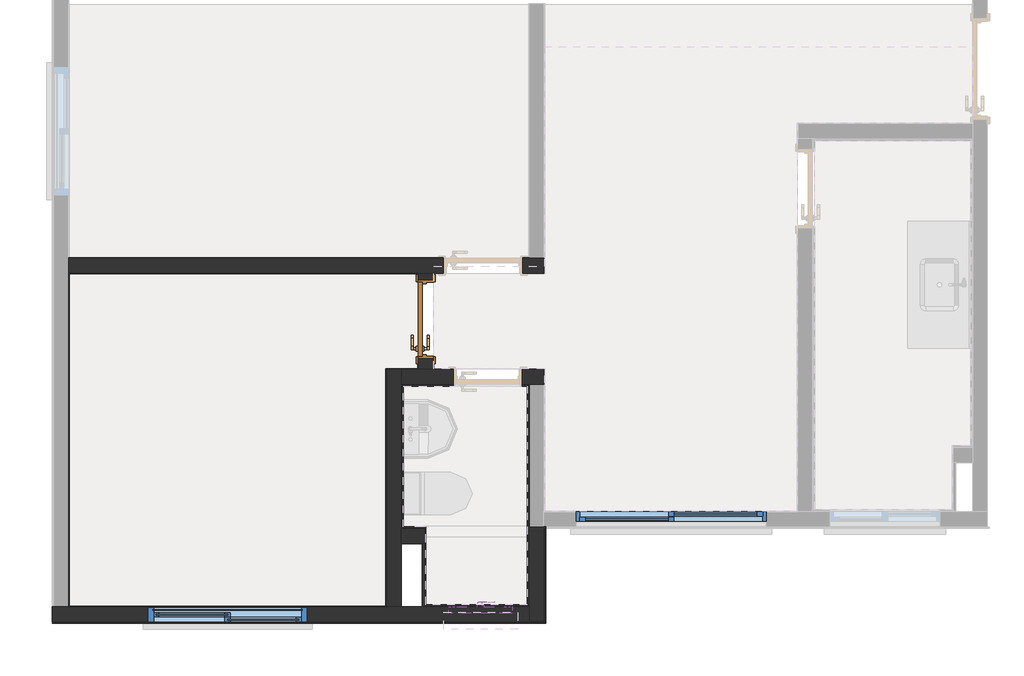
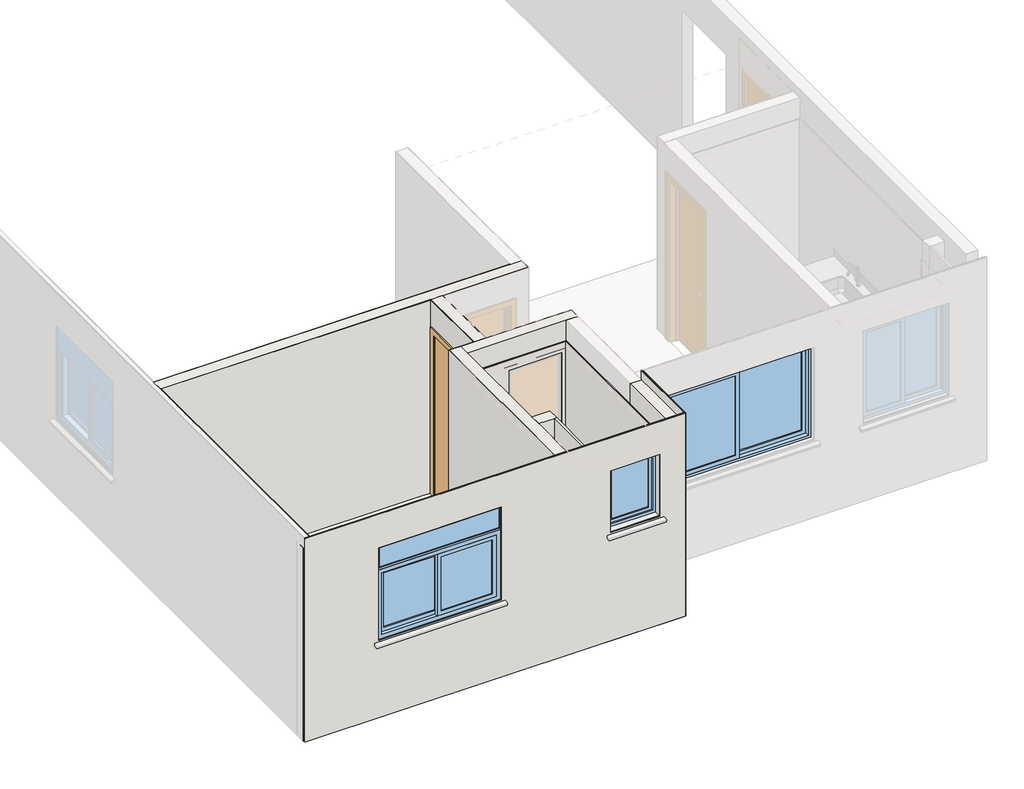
# One storey, part 1 of 11: 26 walls, 3 windows, 1 door.
"""IFC4 building model written with IfcOpenShell, lengths in millimetres."""

from ifc_helpers import new_model, si_unit, frame, origin, origin_with_axes, place, context, project, spatial, polyline, outline, extrude, faceted_brep, transform, mapped, element, save
from components import porta_de_madeira_interna_70_x_210_porta_de_madeira_interna_d0067c94, window_150x120_581fea6a, window_180x120_f0fd8075, window_60x80_d31b0025

model = new_model("IFC4")

# Units and contexts
model_context = context("Model", 3, world=origin())
ifc_project = project(units=[si_unit("LENGTHUNIT", "METRE", prefix="MILLI")], contexts=[model_context])

# Site, building, storey
site = spatial("IfcSite", under=ifc_project)
building = spatial("IfcBuilding", under=site)
storey = spatial("IfcBuildingStorey", under=building, Name="Térreo", Elevation=0.0)

# Door
placement = place(None, origin())
porta_de_madeira_interna_70_x_210_porta_de_madeira_interna_shape = porta_de_madeira_interna_70_x_210_porta_de_madeira_interna_d0067c94(model_context)
element("IfcDoor", 1, ObjectType="Porta de Madeira Interna 70 x 210 : Porta de Madeira Interna 70 x 210", at=placement, inside=storey, context=model_context, shape_type="MappedRepresentation", body=[
    mapped(porta_de_madeira_interna_70_x_210_porta_de_madeira_interna_shape, transform((3546.8230641, 3342.9958256, 0.0), x_axis=(0.0, 1.0, 0.0), y_axis=(-1.0, 0.0, 0.0), z_axis=(0.0, 0.0, 1.0))),
])

# Walls
element("IfcWall", 2, ObjectType="Mureta box", at=placement, inside=storey, context=model_context, shape_type="SweptSolid", body=[
    extrude(outline(polyline([(4509.99398, 1294.9970972), (3529.99398, 1294.9970972), (3529.99398, 1304.9970972), (4509.99398, 1304.9970972), (4509.99398, 1294.9970972)])), origin_with_axes(), (0.0, 0.0, 1.0), 90.0),
    extrude(outline(polyline([(3529.99398, 1374.9970972), (4509.99398, 1374.9970972), (4509.99398, 1364.9970972), (3529.99398, 1364.9970972), (3529.99398, 1374.9970972)])), origin_with_axes(), (0.0, 0.0, 1.0), 90.0),
    extrude(outline(polyline([(4509.99398, 1294.9970972), (3529.99398, 1294.9970972), (3529.99398, 1304.9970972), (4509.99398, 1304.9970972), (4509.99398, 1294.9970972)])), origin_with_axes(), (0.0, 0.0, 1.0), 90.0),
    extrude(outline(polyline([(3529.99398, 1374.9970972), (4509.99398, 1374.9970972), (4509.99398, 1364.9970972), (3529.99398, 1364.9970972), (3529.99398, 1374.9970972)])), origin_with_axes(), (0.0, 0.0, 1.0), 90.0),
    extrude(outline(polyline([(3529.99398, 1304.9970972), (3529.99398, 1364.9970972), (4509.99398, 1364.9970972), (4509.99398, 1304.9970972), (3529.99398, 1304.9970972)])), origin_with_axes(), (0.0, 0.0, 1.0), 90.0),
    extrude(outline(polyline([(3529.99398, 1304.9970972), (3529.99398, 1364.9970972), (4509.99398, 1364.9970972), (4509.99398, 1304.9970972), (3529.99398, 1304.9970972)])), origin_with_axes(), (0.0, 0.0, 1.0), 90.0),
])
element("IfcWall", 3, ObjectType="Alvenaria Estrutural", at=placement, inside=storey, context=model_context, shape_type="Brep", body=[
    faceted_brep([(4669.9996867, 3779.9951411, 2510.0), (3625.9980641, 3779.9951411, 2510.0), (3619.9980641, 3779.9951411, 2510.0), (3479.9980641, 3779.9951411, 2510.0), (3473.9980641, 3779.9951411, 2510.0), (175.9991825, 3779.9951411, 2510.0), (169.9991825, 3779.9951411, 2510.0), (169.9991825, 3779.9951411, 0.0), (175.9991825, 3779.9951411, 0.0), (3473.9980641, 3779.9951411, 0.0), (3479.9980641, 3779.9951411, 0.0), (3619.9980641, 3779.9951411, 0.0), (3625.9980641, 3779.9951411, 0.0), (3717.999908, 3779.9951411, 0.0), (3717.999908, 3779.9951411, 2125.0), (4467.999908, 3779.9951411, 2125.0), (4467.999908, 3779.9951411, 0.0), (4669.9996867, 3779.9951411, 0.0), (169.9991825, 3919.9951411, 2510.0), (175.9991825, 3919.9951411, 2510.0), (4523.9996867, 3919.9951411, 2510.0), (4529.9996867, 3919.9951411, 2510.0), (4669.9996867, 3919.9951411, 2510.0), (4669.9996867, 3919.9951411, 0.0), (4529.9996867, 3919.9951411, 0.0), (4523.9996867, 3919.9951411, 0.0), (4467.999908, 3919.9951411, 0.0), (4467.999908, 3919.9951411, 2125.0), (3717.999908, 3919.9951411, 2125.0), (3717.999908, 3919.9951411, 0.0), (175.9991825, 3919.9951411, 0.0), (169.9991825, 3919.9951411, 0.0)], [[[0, 1, 2, 3, 4, 5, 6, 7, 8, 9, 10, 11, 12, 13, 14, 15, 16, 17]], [[18, 19, 20, 21, 22, 23, 24, 25, 26, 27, 28, 29, 30, 31]], [[8, 7, 31, 30, 29, 13, 12, 11, 10, 9]], [[1, 0, 22, 21, 20, 19, 18, 6, 5, 4, 3, 2]], [[16, 15, 27, 26]], [[15, 14, 28, 27]], [[14, 13, 29, 28]], [[0, 17, 23, 22]], [[7, 6, 18, 31]], [[17, 16, 26, 25, 24, 23]]]),
    faceted_brep([(175.9991825, 3779.9951411, 0.0), (169.9991825, 3779.9951411, 0.0), (169.9991825, 3919.9951411, 0.0), (175.9991825, 3919.9951411, 0.0), (3717.999908, 3919.9951411, 0.0), (3717.999908, 3779.9951411, 0.0), (3625.9980641, 3779.9951411, 0.0), (3619.9980641, 3779.9951411, 0.0), (3479.9980641, 3779.9951411, 0.0), (3473.9980641, 3779.9951411, 0.0), (3625.9980641, 3779.9951411, 2510.0), (4669.9996867, 3779.9951411, 2510.0), (4669.9996867, 3919.9951411, 2510.0), (4529.9996867, 3919.9951411, 2510.0), (4523.9996867, 3919.9951411, 2510.0), (175.9991825, 3919.9951411, 2510.0), (169.9991825, 3919.9951411, 2510.0), (169.9991825, 3779.9951411, 2510.0), (175.9991825, 3779.9951411, 2510.0), (3473.9980641, 3779.9951411, 2510.0), (3479.9980641, 3779.9951411, 2510.0), (3619.9980641, 3779.9951411, 2510.0), (4467.999908, 3779.9951411, 0.0), (4467.999908, 3779.9951411, 2125.0), (4467.999908, 3919.9951411, 2125.0), (4467.999908, 3919.9951411, 0.0), (3717.999908, 3779.9951411, 2125.0), (3717.999908, 3919.9951411, 2125.0), (4669.9996867, 3779.9951411, 0.0), (4523.9996867, 3919.9951411, 0.0), (4529.9996867, 3919.9951411, 0.0), (4669.9996867, 3919.9951411, 0.0)], [[[0, 1, 2, 3, 4, 5, 6, 7, 8, 9]], [[10, 11, 12, 13, 14, 15, 16, 17, 18, 19, 20, 21]], [[22, 23, 24, 25]], [[23, 26, 27, 24]], [[26, 5, 4, 27]], [[28, 22, 25, 29, 30, 31]], [[16, 15, 14, 13, 12, 31, 30, 29, 25, 24, 27, 4, 3, 2]], [[11, 10, 21, 20, 19, 18, 17, 1, 0, 9, 8, 7, 6, 5, 26, 23, 22, 28]], [[11, 28, 31, 12]], [[1, 17, 16, 2]]]),
])
element("IfcWall", 4, ObjectType="Alvenaria Estrutural", at=placement, inside=storey, context=model_context, shape_type="Brep", body=[
    faceted_brep([(3479.9980641, 2869.9967615, 2510.0), (3479.9980641, 2875.9967615, 2510.0), (3479.9980641, 3779.9951411, 2510.0), (3479.9980641, 3779.9951411, 0.0), (3479.9980641, 3717.9958256, 0.0), (3479.9980641, 3717.9958256, 2125.0), (3479.9980641, 2967.9958256, 2125.0), (3479.9980641, 2967.9958256, 0.0), (3479.9980641, 2875.9967615, 0.0), (3479.9980641, 2869.9967615, 0.0), (3619.9980641, 3779.9951411, 2510.0), (3619.9980641, 3773.9951411, 2510.0), (3619.9980641, 2875.9967615, 2510.0), (3619.9980641, 2869.9967615, 2510.0), (3619.9980641, 2869.9967615, 0.0), (3619.9980641, 2875.9967615, 0.0), (3619.9980641, 2967.9958256, 0.0), (3619.9980641, 2967.9958256, 2125.0), (3619.9980641, 3717.9958256, 2125.0), (3619.9980641, 3717.9958256, 0.0), (3619.9980641, 3773.9951411, 0.0), (3619.9980641, 3779.9951411, 0.0)], [[[0, 1, 2, 3, 4, 5, 6, 7, 8, 9]], [[10, 11, 12, 13, 14, 15, 16, 17, 18, 19, 20, 21]], [[4, 3, 21, 20, 19]], [[1, 0, 13, 12, 11, 10, 2]], [[5, 4, 19, 18]], [[6, 5, 18, 17]], [[7, 6, 17, 16]], [[0, 9, 14, 13]], [[3, 2, 10, 21]], [[8, 7, 16, 15, 14, 9]]]),
    faceted_brep([(3479.9980641, 2875.9967615, 2510.0), (3479.9980641, 2869.9967615, 2510.0), (3619.9980641, 2869.9967615, 2510.0), (3619.9980641, 2875.9967615, 2510.0), (3619.9980641, 3773.9951411, 2510.0), (3619.9980641, 3779.9951411, 2510.0), (3479.9980641, 3779.9951411, 2510.0), (3479.9980641, 3717.9958256, 2125.0), (3479.9980641, 3717.9958256, 0.0), (3619.9980641, 3717.9958256, 0.0), (3619.9980641, 3717.9958256, 2125.0), (3479.9980641, 2967.9958256, 2125.0), (3619.9980641, 2967.9958256, 2125.0), (3479.9980641, 2967.9958256, 0.0), (3619.9980641, 2967.9958256, 0.0), (3619.9980641, 2869.9967615, 0.0), (3619.9980641, 2875.9967615, 0.0), (3619.9980641, 3773.9951411, 0.0), (3619.9980641, 3779.9951411, 0.0), (3479.9980641, 3779.9951411, 0.0), (3479.9980641, 2875.9967615, 0.0), (3479.9980641, 2869.9967615, 0.0)], [[[0, 1, 2, 3, 4, 5, 6]], [[7, 8, 9, 10]], [[11, 7, 10, 12]], [[13, 11, 12, 14]], [[5, 4, 3, 2, 15, 16, 14, 12, 10, 9, 17, 18]], [[1, 0, 6, 19, 8, 7, 11, 13, 20, 21]], [[8, 19, 18, 17, 9]], [[1, 21, 15, 2]], [[19, 6, 5, 18]], [[20, 13, 14, 16, 15, 21]]]),
])
element("IfcWall", 5, ObjectType="Alvenaria Estrutural", at=placement, inside=storey, context=model_context, shape_type="Brep", body=[
    faceted_brep([(3319.9976538, 1219.9970972, 0.0), (3516.99398, 1219.9970972, 0.0), (3539.99398, 1219.9970972, 0.0), (3539.99398, 1219.9970972, 2510.0), (3516.99398, 1219.9970972, 2510.0), (3319.9976538, 1219.9970972, 2510.0), (3319.9976538, 1359.9970972, 0.0), (3319.9976538, 1359.9970972, 2510.0), (3539.99398, 1359.9970972, 2510.0), (3539.99398, 1359.9970972, 0.0)], [[[0, 1, 2, 3, 4, 5]], [[6, 7, 8, 9]], [[1, 0, 6, 9, 2]], [[4, 3, 8, 7, 5]], [[3, 2, 9, 8]], [[0, 5, 7, 6]]]),
    faceted_brep([(3319.9976538, 1219.9970972, 0.0), (3516.99398, 1219.9970972, 0.0), (3539.99398, 1219.9970972, 0.0), (3539.99398, 1219.9970972, 2510.0), (3516.99398, 1219.9970972, 2510.0), (3319.9976538, 1219.9970972, 2510.0), (3319.9976538, 1359.9970972, 0.0), (3539.99398, 1359.9970972, 0.0), (3539.99398, 1359.9970972, 2510.0), (3319.9976538, 1359.9970972, 2510.0)], [[[0, 1, 2, 3, 4, 5]], [[1, 0, 6, 7, 2]], [[4, 3, 8, 9, 5]], [[6, 9, 8, 7]], [[3, 2, 7, 8]], [[0, 5, 9, 6]]]),
])
element("IfcWall", 6, ObjectType="Alvenaria Estrutural", at=placement, inside=storey, context=model_context, shape_type="Brep", body=[
    faceted_brep([(3319.9976538, 619.9952456, 0.0), (3319.9976538, 1219.9970972, 0.0), (3319.9976538, 1359.9970972, 0.0), (3319.9976538, 1379.9970972, 0.0), (3319.9976538, 2709.9967615, 0.0), (3319.9976538, 2729.9967615, 0.0), (3319.9976538, 2869.9967615, 0.0), (3319.9976538, 2869.9967615, 2510.0), (3319.9976538, 2729.9967615, 2510.0), (3319.9976538, 1359.9970972, 2510.0), (3319.9976538, 1219.9970972, 2510.0), (3319.9976538, 619.9952456, 2510.0), (3179.9976538, 619.9952456, 0.0), (3179.9976538, 619.9952456, 2510.0), (3179.9976538, 625.9952456, 2510.0), (3179.9976538, 2869.9967615, 2510.0), (3179.9976538, 2869.9967615, 0.0), (3179.9976538, 625.9952456, 0.0)], [[[0, 1, 2, 3, 4, 5, 6, 7, 8, 9, 10, 11]], [[12, 13, 14, 15, 16, 17]], [[1, 0, 12, 17, 16, 6, 5, 4, 3, 2]], [[8, 7, 15, 14, 13, 11, 10, 9]], [[7, 6, 16, 15]], [[0, 11, 13, 12]]]),
    faceted_brep([(3319.9976538, 1219.9970972, 0.0), (3319.9976538, 619.9952456, 0.0), (3179.9976538, 619.9952456, 0.0), (3179.9976538, 625.9952456, 0.0), (3179.9976538, 2869.9967615, 0.0), (3319.9976538, 2869.9967615, 0.0), (3319.9976538, 2729.9967615, 0.0), (3319.9976538, 2709.9967615, 0.0), (3319.9976538, 1379.9970972, 0.0), (3319.9976538, 1359.9970972, 0.0), (3319.9976538, 2729.9967615, 2510.0), (3319.9976538, 2869.9967615, 2510.0), (3179.9976538, 2869.9967615, 2510.0), (3179.9976538, 625.9952456, 2510.0), (3179.9976538, 619.9952456, 2510.0), (3319.9976538, 619.9952456, 2510.0), (3319.9976538, 1219.9970972, 2510.0), (3319.9976538, 1359.9970972, 2510.0)], [[[0, 1, 2, 3, 4, 5, 6, 7, 8, 9]], [[10, 11, 12, 13, 14, 15, 16, 17]], [[1, 0, 9, 8, 7, 6, 5, 11, 10, 17, 16, 15]], [[2, 14, 13, 12, 4, 3]], [[11, 5, 4, 12]], [[1, 15, 14, 2]]]),
])
element("IfcWall", 7, ObjectType="Alvenaria Estrutural", at=placement, inside=storey, context=model_context, shape_type="Brep", body=[
    faceted_brep([(4669.9990083, 2729.9967615, 2510.0), (4529.9990083, 2729.9967615, 2510.0), (3319.9976538, 2729.9967615, 2510.0), (3319.9976538, 2729.9967615, 0.0), (3812.9990083, 2729.9967615, 0.0), (3812.9990083, 2729.9967615, 2125.0), (4462.9990083, 2729.9967615, 2125.0), (4462.9990083, 2729.9967615, 0.0), (4529.9990083, 2729.9967615, 0.0), (4669.9990083, 2729.9967615, 0.0), (3319.9976538, 2869.9967615, 2510.0), (3479.9980641, 2869.9967615, 2510.0), (3619.9980641, 2869.9967615, 2510.0), (3625.9980641, 2869.9967615, 2510.0), (4669.9990083, 2869.9967615, 2510.0), (4669.9990083, 2869.9967615, 0.0), (4462.9990083, 2869.9967615, 0.0), (4462.9990083, 2869.9967615, 2125.0), (3812.9990083, 2869.9967615, 2125.0), (3812.9990083, 2869.9967615, 0.0), (3625.9980641, 2869.9967615, 0.0), (3619.9980641, 2869.9967615, 0.0), (3479.9980641, 2869.9967615, 0.0), (3319.9976538, 2869.9967615, 0.0)], [[[0, 1, 2, 3, 4, 5, 6, 7, 8, 9]], [[10, 11, 12, 13, 14, 15, 16, 17, 18, 19, 20, 21, 22, 23]], [[4, 3, 23, 22, 21, 20, 19]], [[1, 0, 14, 13, 12, 11, 10, 2]], [[7, 6, 17, 16]], [[6, 5, 18, 17]], [[5, 4, 19, 18]], [[0, 9, 15, 14]], [[3, 2, 10, 23]], [[8, 7, 16, 15, 9]]]),
    faceted_brep([(3812.9990083, 2729.9967615, 0.0), (3319.9976538, 2729.9967615, 0.0), (3319.9976538, 2869.9967615, 0.0), (3479.9980641, 2869.9967615, 0.0), (3619.9980641, 2869.9967615, 0.0), (3625.9980641, 2869.9967615, 0.0), (3812.9990083, 2869.9967615, 0.0), (4529.9990083, 2729.9967615, 2510.0), (4669.9990083, 2729.9967615, 2510.0), (4669.9990083, 2869.9967615, 2510.0), (3625.9980641, 2869.9967615, 2510.0), (3619.9980641, 2869.9967615, 2510.0), (3479.9980641, 2869.9967615, 2510.0), (3319.9976538, 2869.9967615, 2510.0), (3319.9976538, 2729.9967615, 2510.0), (4462.9990083, 2729.9967615, 0.0), (4462.9990083, 2729.9967615, 2125.0), (4462.9990083, 2869.9967615, 2125.0), (4462.9990083, 2869.9967615, 0.0), (3812.9990083, 2729.9967615, 2125.0), (3812.9990083, 2869.9967615, 2125.0), (4529.9990083, 2729.9967615, 0.0), (4669.9990083, 2869.9967615, 0.0), (4669.9990083, 2729.9967615, 0.0)], [[[0, 1, 2, 3, 4, 5, 6]], [[7, 8, 9, 10, 11, 12, 13, 14]], [[15, 16, 17, 18]], [[16, 19, 20, 17]], [[19, 0, 6, 20]], [[21, 15, 18, 22, 23]], [[13, 12, 11, 10, 9, 22, 18, 17, 20, 6, 5, 4, 3, 2]], [[8, 7, 14, 1, 0, 19, 16, 15, 21, 23]], [[8, 23, 22, 9]], [[1, 14, 13, 2]]]),
])
element("IfcWall", 8, ObjectType="Alvenaria Estrutural", at=placement, inside=storey, context=model_context, shape_type="Brep", body=[
    faceted_brep([(4669.9986472, 479.9952456, 0.0), (4669.9986472, 1374.9970972, 0.0), (4669.9986472, 1374.9970972, 2510.0), (4669.9986472, 479.9952456, 2510.0), (4529.9986472, 479.9952456, 0.0), (4529.9986472, 479.9952456, 2510.0), (4529.9986472, 619.9952456, 2510.0), (4529.9986472, 1374.9970972, 2510.0), (4529.9986472, 1374.9970972, 0.0), (4529.9986472, 619.9952456, 0.0)], [[[0, 1, 2, 3]], [[4, 5, 6, 7, 8, 9]], [[1, 0, 4, 9, 8]], [[2, 1, 8, 7]], [[3, 2, 7, 6, 5]], [[0, 3, 5, 4]]]),
    faceted_brep([(4669.9986472, 1374.9970972, 0.0), (4669.9986472, 479.9952456, 0.0), (4529.9986472, 479.9952456, 0.0), (4529.9986472, 619.9952456, 0.0), (4529.9986472, 1374.9970972, 0.0), (4669.9986472, 1374.9970972, 2510.0), (4529.9986472, 1374.9970972, 2510.0), (4669.9986472, 479.9952456, 2510.0), (4529.9986472, 619.9952456, 2510.0), (4529.9986472, 479.9952456, 2510.0)], [[[0, 1, 2, 3, 4]], [[5, 0, 4, 6]], [[7, 5, 6, 8, 9]], [[2, 9, 8, 6, 4, 3]], [[1, 0, 5, 7]], [[1, 7, 9, 2]]]),
])
element("IfcWall", 9, ObjectType="Alvenaria Estrutural", at=placement, inside=storey, context=model_context, shape_type="Brep", body=[
    faceted_brep([(14.9976538, 479.9952456, 0.0), (4529.9986472, 479.9952456, 0.0), (4529.9986472, 479.9952456, 2510.0), (14.9976538, 479.9952456, 2510.0), (3719.9986472, 479.9952456, 1351.3083694), (3719.9986472, 479.9952456, 1400.0), (3769.9986472, 479.9952456, 1400.0), (3769.9986472, 479.9952456, 2200.0), (4369.9986472, 479.9952456, 2200.0), (4369.9986472, 479.9952456, 1400.0), (4419.9986472, 479.9952456, 1400.0), (4419.9986472, 479.9952456, 1351.3083694), (874.9984443, 479.9952456, 951.3083694), (874.9984443, 479.9952456, 1000.0), (924.9984443, 479.9952456, 1000.0), (924.9984443, 479.9952456, 2200.0), (2424.9984443, 479.9952456, 2200.0), (2424.9984443, 479.9952456, 1000.0), (2474.9984443, 479.9952456, 1000.0), (2474.9984443, 479.9952456, 951.3083694), (4529.9986472, 619.9952456, 0.0), (4509.9990083, 619.9952456, 0.0), (3539.99398, 619.9952456, 0.0), (3516.99398, 619.9952456, 0.0), (3319.9976538, 619.9952456, 0.0), (3179.9976538, 619.9952456, 0.0), (175.9991825, 619.9952456, 0.0), (169.9991825, 619.9952456, 0.0), (14.9976538, 619.9952456, 0.0), (14.9976538, 619.9952456, 2510.0), (169.9991825, 619.9952456, 2510.0), (175.9991825, 619.9952456, 2510.0), (3179.9976538, 619.9952456, 2510.0), (3319.9976538, 619.9952456, 2510.0), (3516.99398, 619.9952456, 2510.0), (3539.99398, 619.9952456, 2510.0), (4529.9986472, 619.9952456, 2510.0), (4529.9986472, 619.9952456, 2250.0), (4369.9986472, 619.9952456, 1400.0), (4369.9986472, 619.9952456, 2200.0), (3769.9986472, 619.9952456, 2200.0), (3769.9986472, 619.9952456, 1400.0), (2424.9984443, 619.9952456, 1000.0), (2424.9984443, 619.9952456, 2200.0), (924.9984443, 619.9952456, 2200.0), (924.9984443, 619.9952456, 1000.0), (4529.9986472, 480.9952456, 0.0), (4529.9986472, 480.9952456, 2510.0), (874.9984443, 577.4952456, 972.0326341), (874.9984443, 577.4952456, 1000.0), (2474.9984443, 577.4952456, 1000.0), (2474.9984443, 577.4952456, 972.0326341), (2424.9984443, 577.4952456, 1000.0), (924.9984443, 577.4952456, 1000.0), (3719.9986472, 577.4952456, 1372.0326341), (3719.9986472, 577.4952456, 1400.0), (4419.9986472, 577.4952456, 1400.0), (4419.9986472, 577.4952456, 1372.0326341), (4369.9986472, 577.4952456, 1400.0), (3769.9986472, 577.4952456, 1400.0)], [[[0, 1, 2, 3], [4, 5, 6, 7, 8, 9, 10, 11], [12, 13, 14, 15, 16, 17, 18, 19]], [[20, 21, 22, 23, 24, 25, 26, 27, 28, 29, 30, 31, 32, 33, 34, 35, 36, 37], [38, 39, 40, 41], [42, 43, 44, 45]], [[1, 0, 28, 27, 26, 25, 24, 23, 22, 21, 20, 46]], [[29, 3, 2, 47, 36, 35, 34, 33, 32, 31, 30]], [[13, 12, 48, 49]], [[19, 18, 50, 51]], [[49, 48, 51, 50, 52, 53]], [[14, 13, 49, 53]], [[12, 19, 51, 48]], [[17, 16, 43, 42, 52]], [[16, 15, 44, 43]], [[15, 14, 53, 45, 44]], [[42, 45, 53, 52]], [[5, 4, 54, 55]], [[11, 10, 56, 57]], [[55, 54, 57, 56, 58, 59]], [[6, 5, 55, 59]], [[4, 11, 57, 54]], [[9, 8, 39, 38, 58]], [[8, 7, 40, 39]], [[7, 6, 59, 41, 40]], [[38, 41, 59, 58]], [[2, 1, 46, 20, 37, 36, 47]], [[10, 9, 58, 56]], [[18, 17, 52, 50]], [[0, 3, 29, 28]]]),
])
element("IfcWall", 10, ObjectType="Azulejo", at=placement, inside=storey, context=model_context, shape_type="SolidModel", body=[
    faceted_brep([(3812.9990083, 2719.9967615, 0.0), (3812.9990083, 2709.9967615, 0.0), (3339.9976538, 2709.9967615, 0.0), (3329.9976538, 2709.9967615, 0.0), (3329.9976538, 2719.9967615, 0.0), (3339.9976538, 2709.9967615, 2250.0), (4509.9990083, 2709.9967615, 2250.0), (4519.9990083, 2709.9967615, 2250.0), (4519.9990083, 2719.9967615, 2250.0), (3329.9976538, 2719.9967615, 2250.0), (3329.9976538, 2709.9967615, 2250.0), (4462.9990083, 2709.9967615, 0.0), (4462.9990083, 2709.9967615, 2125.0), (4462.9990083, 2719.9967615, 2125.0), (4462.9990083, 2719.9967615, 0.0), (3812.9990083, 2709.9967615, 2125.0), (3812.9990083, 2719.9967615, 2125.0), (4519.9990083, 2719.9967615, 0.0), (4519.9990083, 2709.9967615, 0.0), (4509.9990083, 2709.9967615, 0.0)], [[[0, 1, 2, 3, 4]], [[5, 6, 7, 8, 9, 10]], [[11, 12, 13, 14]], [[13, 12, 15, 16]], [[1, 0, 16, 15]], [[11, 14, 17, 18, 19]], [[14, 13, 16, 0, 4, 9, 8, 17]], [[2, 1, 15, 12, 11, 19, 18, 7, 6, 5, 10, 3]], [[4, 3, 10, 9]], [[8, 7, 18, 17]]]),
    extrude(outline(polyline([(0.0, 3319.9976538), (0.0, 3812.9990083), (2125.0, 3812.9990083), (2125.0, 4462.9990083), (0.0, 4462.9990083), (0.0, 4529.9990083), (2250.0, 4529.9990083), (2250.0, 3319.9976538), (0.0, 3319.9976538)])), frame((0.0, 2719.9967615, 0.0), z_axis=(0.0, 1.0, 0.0), x_axis=(0.0, 0.0, 1.0)), (0.0, 0.0, 1.0), 10.0),
])
element("IfcWall", 11, ObjectType="Azulejo", at=placement, inside=storey, context=model_context, shape_type="SolidModel", body=[
    faceted_brep([(4509.9990083, 639.9950349, 0.0), (4509.9990083, 2709.9967615, 0.0), (4519.9990083, 2709.9967615, 0.0), (4519.9990083, 629.9950349, 0.0), (4509.9990083, 629.9950349, 0.0), (4519.9990083, 2709.9967615, 2250.0), (4509.9990083, 2709.9967615, 2250.0), (4509.9990083, 639.9950349, 2250.0), (4509.9990083, 629.9950349, 2250.0), (4519.9990083, 629.9950349, 2250.0)], [[[0, 1, 2, 3, 4]], [[5, 6, 7, 8, 9]], [[2, 1, 6, 5]], [[2, 5, 9, 3]], [[1, 0, 4, 8, 7, 6]], [[4, 3, 9, 8]]]),
    extrude(outline(polyline([(4529.9990083, 2719.9967615), (4529.9990083, 619.9952456), (4519.9990083, 619.9952456), (4519.9990083, 2719.9967615), (4529.9990083, 2719.9967615)])), origin_with_axes(), (0.0, 0.0, 1.0), 2250.0),
])
element("IfcWall", 12, ObjectType="Azulejo", at=placement, inside=storey, context=model_context, shape_type="SolidModel", body=[
    faceted_brep([(3549.99398, 639.9950349, 0.0), (4509.9990083, 639.9950349, 0.0), (4509.9990083, 629.9950349, 0.0), (3539.99398, 629.9950349, 0.0), (3539.99398, 639.9950349, 0.0), (3549.99398, 639.9950349, 2250.0), (3539.99398, 639.9950349, 2250.0), (3539.99398, 629.9950349, 2250.0), (4509.9990083, 629.9950349, 2250.0), (4509.9990083, 639.9950349, 2250.0), (4369.9986472, 639.9950349, 2200.0), (4369.9986472, 639.9950349, 1400.0), (4369.9986472, 629.9950349, 1400.0), (4369.9986472, 629.9950349, 2200.0), (3769.9986472, 639.9950349, 2200.0), (3769.9986472, 629.9950349, 2200.0), (3769.9986472, 639.9950349, 1400.0), (3769.9986472, 629.9950349, 1400.0)], [[[0, 1, 2, 3, 4]], [[5, 6, 7, 8, 9]], [[1, 9, 8, 2]], [[6, 4, 3, 7]], [[10, 11, 12, 13]], [[14, 10, 13, 15]], [[16, 14, 15, 17]], [[11, 16, 17, 12]], [[3, 2, 8, 7], [13, 12, 17, 15]], [[1, 0, 4, 6, 5, 9], [11, 10, 14, 16]]]),
    extrude(outline(polyline([(0.0, 4519.9990083), (2250.0, 4519.9990083), (2250.0, 3539.99398), (0.0, 3539.99398), (0.0, 4519.9990083)]), holes=[polyline([(1400.0, 4369.9986472), (1400.0, 3769.9986472), (2200.0, 3769.9986472), (2200.0, 4369.9986472), (1400.0, 4369.9986472)])]), frame((0.0, 619.9950349, 0.0), z_axis=(0.0, 1.0, 0.0), x_axis=(0.0, 0.0, 1.0)), (0.0, 0.0, 1.0), 10.0),
])
element("IfcWall", 13, ObjectType="Azulejo", at=placement, inside=storey, context=model_context, shape_type="SweptSolid", body=[
    extrude(outline(polyline([(3549.99398, 1369.9970972), (3549.99398, 1219.9970972), (3539.99398, 1219.9970972), (3539.99398, 1369.9970972), (3549.99398, 1369.9970972)])), origin_with_axes(), (0.0, 0.0, 1.0), 2250.0),
    extrude(outline(polyline([(3529.99398, 1219.9970972), (3529.99398, 1359.9970972), (3539.99398, 1359.9970972), (3539.99398, 1219.9970972), (3529.99398, 1219.9970972)])), origin_with_axes(), (0.0, 0.0, 1.0), 2250.0),
])
element("IfcWall", 14, ObjectType="Azulejo", at=placement, inside=storey, context=model_context, shape_type="Brep", body=[
    faceted_brep([(3339.9976538, 1379.9970972, 0.0), (3549.99398, 1379.9970972, 0.0), (3549.99398, 1369.9970972, 0.0), (3329.9976538, 1369.9970972, 0.0), (3329.9976538, 1379.9970972, 0.0), (3549.99398, 1369.9970972, 2250.0), (3549.99398, 1379.9970972, 2250.0), (3339.9976538, 1379.9970972, 2250.0), (3329.9976538, 1379.9970972, 2250.0), (3329.9976538, 1369.9970972, 2250.0)], [[[0, 1, 2, 3, 4]], [[5, 6, 7, 8, 9]], [[2, 1, 6, 5]], [[2, 5, 9, 3]], [[1, 0, 4, 8, 7, 6]], [[4, 3, 9, 8]]]),
    faceted_brep([(3539.99398, 1369.9970972, 0.0), (3319.9976538, 1369.9970972, 0.0), (3319.9976538, 1369.9970972, 2250.0), (3539.99398, 1369.9970972, 2250.0), (3319.9976538, 1359.9970972, 0.0), (3529.99398, 1359.9970972, 0.0), (3539.99398, 1359.9970972, 0.0), (3539.99398, 1359.9970972, 2250.0), (3529.99398, 1359.9970972, 2250.0), (3319.9976538, 1359.9970972, 2250.0)], [[[0, 1, 2, 3]], [[4, 5, 6, 7, 8, 9]], [[5, 4, 1, 0, 6]], [[8, 7, 3, 2, 9]], [[4, 9, 2, 1]], [[7, 6, 0, 3]]]),
])
element("IfcWall", 15, ObjectType="Azulejo", at=placement, inside=storey, context=model_context, shape_type="SweptSolid", body=[
    extrude(outline(polyline([(3339.9976538, 2709.9967615), (3339.9976538, 1379.9970972), (3329.9976538, 1379.9970972), (3329.9976538, 2709.9967615), (3339.9976538, 2709.9967615)])), origin_with_axes(), (0.0, 0.0, 1.0), 2250.0),
    extrude(outline(polyline([(3319.9976538, 1369.9970972), (3319.9976538, 2719.9967615), (3329.9976538, 2719.9967615), (3329.9976538, 1369.9970972), (3319.9976538, 1369.9970972)])), origin_with_axes(), (0.0, 0.0, 1.0), 2250.0),
])
element("IfcWall", 16, ObjectType="Azulejo - Shaft", at=placement, inside=storey, context=model_context, shape_type="SweptSolid", body=[
    extrude(outline(polyline([(3549.99398, 1219.9970972), (3549.99398, 639.9950349), (3539.99398, 639.9950349), (3539.99398, 1219.9970972), (3549.99398, 1219.9970972)])), origin_with_axes(), (0.0, 0.0, 1.0), 2250.0),
])
element("IfcWall", 17, ObjectType="Gesso Liso + Pintura", at=placement, inside=storey, context=model_context, shape_type="SweptSolid", body=[
    extrude(outline(polyline([(0.0, 169.9991825), (0.0, 3717.999908), (2125.0, 3717.999908), (2125.0, 4467.999908), (0.0, 4467.999908), (0.0, 4529.9996867), (2510.0, 4529.9996867), (2510.0, 169.9991825), (0.0, 169.9991825)])), frame((0.0, 3924.9951411, 0.0), z_axis=(0.0, 1.0, 0.0), x_axis=(0.0, 0.0, 1.0)), (0.0, 0.0, 1.0), 1.0),
    extrude(outline(polyline([(2510.0, 4529.9996867), (2510.0, 169.9991825), (0.0, 169.9991825), (0.0, 3717.999908), (2125.0, 3717.999908), (2125.0, 4467.999908), (0.0, 4467.999908), (0.0, 4529.9996867), (2510.0, 4529.9996867)])), frame((0.0, 3919.9951411, 0.0), z_axis=(0.0, 1.0, 0.0), x_axis=(0.0, 0.0, 1.0)), (0.0, 0.0, 1.0), 5.0),
])
element("IfcWall", 18, ObjectType="Gesso Liso + Pintura", at=placement, inside=storey, context=model_context, shape_type="SolidModel", body=[
    faceted_brep([(174.9991825, 3779.9951411, 0.0), (175.9991825, 3779.9951411, 0.0), (175.9991825, 625.9952456, 0.0), (175.9991825, 624.9952456, 0.0), (174.9991825, 624.9952456, 0.0), (175.9991825, 625.9952456, 2510.0), (175.9991825, 3779.9951411, 2510.0), (174.9991825, 3779.9951411, 2510.0), (174.9991825, 624.9952456, 2510.0), (175.9991825, 624.9952456, 2510.0)], [[[0, 1, 2, 3, 4]], [[5, 6, 7, 8, 9]], [[1, 0, 7, 6]], [[7, 0, 4, 8]], [[2, 1, 6, 5, 9, 3]], [[4, 3, 9, 8]]]),
    extrude(outline(polyline([(169.9991825, 619.9952456), (169.9991825, 3779.9951411), (174.9991825, 3779.9951411), (174.9991825, 619.9952456), (169.9991825, 619.9952456)])), origin_with_axes(), (0.0, 0.0, 1.0), 2510.0),
])
element("IfcWall", 19, ObjectType="Gesso Liso + Pintura", at=placement, inside=storey, context=model_context, shape_type="SolidModel", body=[
    faceted_brep([(175.9991825, 624.9952456, 0.0), (175.9991825, 625.9952456, 0.0), (3173.9976538, 625.9952456, 0.0), (3174.9976538, 625.9952456, 0.0), (3174.9976538, 624.9952456, 0.0), (3173.9976538, 625.9952456, 2510.0), (175.9991825, 625.9952456, 2510.0), (175.9991825, 624.9952456, 2510.0), (3174.9976538, 624.9952456, 2510.0), (3174.9976538, 625.9952456, 2510.0), (2424.9984443, 625.9952456, 2200.0), (2424.9984443, 625.9952456, 1000.0), (2424.9984443, 624.9952456, 1000.0), (2424.9984443, 624.9952456, 2200.0), (924.9984443, 624.9952456, 2200.0), (924.9984443, 625.9952456, 2200.0), (924.9984443, 624.9952456, 1000.0), (924.9984443, 625.9952456, 1000.0)], [[[0, 1, 2, 3, 4]], [[5, 6, 7, 8, 9]], [[1, 0, 7, 6]], [[10, 11, 12, 13]], [[10, 13, 14, 15]], [[15, 14, 16, 17]], [[12, 11, 17, 16]], [[7, 0, 4, 8], [13, 12, 16, 14]], [[2, 1, 6, 5, 9, 3], [11, 10, 15, 17]], [[4, 3, 9, 8]]]),
    extrude(outline(polyline([(0.0, 174.9991825), (0.0, 3179.9976538), (2510.0, 3179.9976538), (2510.0, 174.9991825), (0.0, 174.9991825)]), holes=[polyline([(1000.0, 2424.9984443), (1000.0, 924.9984443), (2200.0, 924.9984443), (2200.0, 2424.9984443), (1000.0, 2424.9984443)])]), frame((0.0, 619.9952456, 0.0), z_axis=(0.0, 1.0, 0.0), x_axis=(0.0, 0.0, 1.0)), (0.0, 0.0, 1.0), 5.0),
])
element("IfcWall", 20, ObjectType="Gesso Liso + Pintura", at=placement, inside=storey, context=model_context, shape_type="SolidModel", body=[
    extrude(outline(polyline([(3173.9976538, 625.9952456), (3173.9976538, 2875.9967615), (3174.9976538, 2875.9967615), (3174.9976538, 625.9952456), (3173.9976538, 625.9952456)])), origin_with_axes(), (0.0, 0.0, 1.0), 2510.0),
    faceted_brep([(3174.9976538, 2874.9967615, 0.0), (3174.9976538, 624.9952456, 0.0), (3174.9976538, 624.9952456, 2510.0), (3174.9976538, 2874.9967615, 2510.0), (3179.9976538, 624.9952456, 0.0), (3179.9976538, 2869.9967615, 0.0), (3179.9976538, 2874.9967615, 0.0), (3179.9976538, 2874.9967615, 2510.0), (3179.9976538, 2869.9967615, 2510.0), (3179.9976538, 624.9952456, 2510.0)], [[[0, 1, 2, 3]], [[4, 5, 6, 7, 8, 9]], [[5, 4, 1, 0, 6]], [[8, 7, 3, 2, 9]], [[4, 9, 2, 1]], [[7, 6, 0, 3]]]),
])
element("IfcWall", 21, ObjectType="Gesso Liso + Pintura", at=placement, inside=storey, context=model_context, shape_type="SolidModel", body=[
    faceted_brep([(3174.9976538, 2875.9967615, 0.0), (3473.9980641, 2875.9967615, 0.0), (3474.9980641, 2875.9967615, 0.0), (3474.9980641, 2874.9967615, 0.0), (3174.9976538, 2874.9967615, 0.0), (3473.9980641, 2875.9967615, 2510.0), (3174.9976538, 2875.9967615, 2510.0), (3174.9976538, 2874.9967615, 2510.0), (3474.9980641, 2874.9967615, 2510.0), (3474.9980641, 2875.9967615, 2510.0)], [[[0, 1, 2, 3, 4]], [[5, 6, 7, 8, 9]], [[7, 4, 3, 8]], [[1, 0, 6, 5, 9, 2]], [[6, 0, 4, 7]], [[3, 2, 9, 8]]]),
    extrude(outline(polyline([(3479.9980641, 2869.9967615), (3179.9976538, 2869.9967615), (3179.9976538, 2874.9967615), (3479.9980641, 2874.9967615), (3479.9980641, 2869.9967615)])), origin_with_axes(), (0.0, 0.0, 1.0), 2510.0),
])
element("IfcWall", 22, ObjectType="Gesso Liso + Pintura", at=placement, inside=storey, context=model_context, shape_type="SolidModel", body=[
    faceted_brep([(3473.9980641, 2875.9967615, 0.0), (3473.9980641, 2967.9958256, 0.0), (3474.9980641, 2967.9958256, 0.0), (3474.9980641, 2875.9967615, 0.0), (3473.9980641, 3773.9951411, 2510.0), (3473.9980641, 2875.9967615, 2510.0), (3474.9980641, 2875.9967615, 2510.0), (3474.9980641, 3774.9951411, 2510.0), (3473.9980641, 3774.9951411, 2510.0), (3473.9980641, 3717.9958256, 2125.0), (3473.9980641, 3717.9958256, 0.0), (3474.9980641, 3717.9958256, 0.0), (3474.9980641, 3717.9958256, 2125.0), (3474.9980641, 2967.9958256, 2125.0), (3473.9980641, 2967.9958256, 2125.0), (3473.9980641, 3773.9951411, 0.0), (3473.9980641, 3774.9951411, 0.0), (3474.9980641, 3774.9951411, 0.0)], [[[0, 1, 2, 3]], [[4, 5, 6, 7, 8]], [[9, 10, 11, 12]], [[9, 12, 13, 14]], [[2, 1, 14, 13]], [[0, 3, 6, 5]], [[11, 10, 15, 16, 17]], [[3, 2, 13, 12, 11, 17, 7, 6]], [[1, 0, 5, 4, 8, 16, 15, 10, 9, 14]], [[8, 7, 17, 16]]]),
    extrude(outline(polyline([(2967.9958256, 0.0), (2874.9967615, 0.0), (2874.9967615, 2510.0), (3779.9951411, 2510.0), (3779.9951411, 0.0), (3717.9958256, 0.0), (3717.9958256, 2125.0), (2967.9958256, 2125.0), (2967.9958256, 0.0)])), frame((3474.9980641, 0.0, 0.0), z_axis=(1.0, 0.0, 0.0), x_axis=(0.0, 1.0, 0.0)), (0.0, 0.0, 1.0), 5.0),
])
element("IfcWall", 23, ObjectType="Gesso Liso + Pintura", at=placement, inside=storey, context=model_context, shape_type="SweptSolid", body=[
    extrude(outline(polyline([(3473.9980641, 3773.9951411), (169.9991825, 3773.9951411), (169.9991825, 3774.9951411), (3473.9980641, 3774.9951411), (3473.9980641, 3773.9951411)])), origin_with_axes(), (0.0, 0.0, 1.0), 2510.0),
    extrude(outline(polyline([(169.9991825, 3779.9951411), (3474.9980641, 3779.9951411), (3474.9980641, 3774.9951411), (169.9991825, 3774.9951411), (169.9991825, 3779.9951411)])), origin_with_axes(), (0.0, 0.0, 1.0), 2510.0),
])
element("IfcWall", 24, ObjectType="Gesso Liso + Pintura", at=placement, inside=storey, context=model_context, shape_type="SweptSolid", body=[
    extrude(outline(polyline([(2967.9958256, 0.0), (2869.9967615, 0.0), (2869.9967615, 2510.0), (3779.9951411, 2510.0), (3779.9951411, 0.0), (3717.9958256, 0.0), (3717.9958256, 2125.0), (2967.9958256, 2125.0), (2967.9958256, 0.0)])), frame((3624.9980641, 0.0, 0.0), z_axis=(1.0, 0.0, 0.0), x_axis=(0.0, 1.0, 0.0)), (0.0, 0.0, 1.0), 1.0),
    extrude(outline(polyline([(2869.9967615, 2510.0), (3779.9951411, 2510.0), (3779.9951411, 0.0), (3717.9958256, 0.0), (3717.9958256, 2125.0), (2967.9958256, 2125.0), (2967.9958256, 0.0), (2869.9967615, 0.0), (2869.9967615, 2510.0)])), frame((3619.9980641, 0.0, 0.0), z_axis=(1.0, 0.0, 0.0), x_axis=(0.0, 1.0, 0.0)), (0.0, 0.0, 1.0), 5.0),
])
element("IfcWall", 25, ObjectType="Reboco + Pintura Externa", at=placement, inside=storey, context=model_context, shape_type="Brep", body=[
    faceted_brep([(4684.9986472, 464.9952456, 0.0), (4684.9986472, 464.9952456, 10.0), (4684.9986472, 464.9952456, 2520.0), (4684.9986472, 464.9952456, 2630.0), (4684.9986472, 1364.9983274, 2630.0), (4684.9986472, 1364.9983274, 2520.0), (4684.9986472, 1364.9983274, 10.0), (4684.9986472, 1364.9983274, 0.0), (4685.9986472, 1363.9983274, 0.0), (4685.9986472, 464.9952456, 0.0), (4685.9986472, 1364.9983274, 0.0), (4685.9986472, 464.9952456, 10.0), (4685.9986472, 464.9952456, 2520.0), (4685.9986472, 464.9952456, 2630.0), (4685.9986472, 1364.9983274, 10.0), (4685.9986472, 1364.9983274, 2520.0), (4685.9986472, 1364.9983274, 2630.0), (4685.9986472, 1363.9983274, 2630.0)], [[[0, 1, 2, 3, 4, 5, 6, 7]], [[8, 9, 0, 7, 10]], [[1, 0, 9, 11, 12, 13, 3, 2]], [[9, 8, 10, 14, 15, 16, 17, 13, 12, 11]], [[7, 6, 5, 4, 16, 15, 14, 10]], [[4, 3, 13, 17, 16]]]),
    faceted_brep([(4674.9986472, 1379.9983274, 0.0), (4674.9986472, 475.9952456, 0.0), (4669.9986472, 475.9952456, 0.0), (4669.9986472, 480.9952456, 0.0), (4669.9986472, 1379.9983274, 0.0), (4674.9986472, 1379.9983274, 10.0), (4669.9986472, 1379.9983274, 10.0), (4669.9986472, 1379.9983274, 2520.0), (4669.9986472, 1379.9983274, 2630.0), (4674.9986472, 1379.9983274, 2630.0), (4674.9986472, 1379.9983274, 2520.0), (4674.9986472, 475.9952456, 2630.0), (4674.9986472, 475.9952456, 2520.0), (4674.9986472, 475.9952456, 10.0), (4669.9986472, 475.9952456, 10.0), (4669.9986472, 475.9952456, 2520.0), (4669.9986472, 475.9952456, 2630.0), (4669.9986472, 480.9952456, 2630.0)], [[[0, 1, 2, 3, 4]], [[5, 0, 4, 6, 7, 8, 9, 10]], [[1, 0, 5, 10, 9, 11, 12, 13]], [[4, 3, 2, 14, 15, 16, 17, 8, 7, 6]], [[14, 2, 1, 13, 12, 11, 16, 15]], [[11, 9, 8, 17, 16]]]),
    faceted_brep([(4684.9986472, 465.9952456, 0.0), (4684.9986472, 1379.9983274, 0.0), (4684.9986472, 1379.9983274, 10.0), (4684.9986472, 1379.9983274, 2520.0), (4684.9986472, 1379.9983274, 2630.0), (4684.9986472, 465.9952456, 2630.0), (4684.9986472, 465.9952456, 2520.0), (4684.9986472, 465.9952456, 10.0), (4674.9986472, 465.9952456, 0.0), (4674.9986472, 1379.9983274, 0.0), (4674.9986472, 1379.9983274, 10.0), (4674.9986472, 1379.9983274, 2520.0), (4674.9986472, 1379.9983274, 2630.0), (4674.9986472, 465.9952456, 10.0), (4674.9986472, 465.9952456, 2520.0), (4674.9986472, 465.9952456, 2630.0)], [[[0, 1, 2, 3, 4, 5, 6, 7]], [[1, 0, 8, 9]], [[2, 1, 9, 10, 11, 12, 4, 3]], [[9, 8, 13, 14, 15, 12, 11, 10]], [[8, 0, 7, 6, 5, 15, 14, 13]], [[5, 4, 12, 15]]]),
])
element("IfcWall", 26, ObjectType="Reboco + Pintura Externa", at=placement, inside=storey, context=model_context, shape_type="SolidModel", body=[
    extrude(outline(polyline([(0.0, 14.9976538), (0.0, 4684.9986472), (2630.0, 4684.9986472), (2630.0, 14.9976538), (0.0, 14.9976538)]), holes=[polyline([(2200.0, 2424.9984443), (1000.0, 2424.9984443), (1000.0, 924.9984443), (2200.0, 924.9984443), (2200.0, 2424.9984443)]), polyline([(2200.0, 4369.9986472), (1400.0, 4369.9986472), (1400.0, 3769.9986472), (2200.0, 3769.9986472), (2200.0, 4369.9986472)])]), frame((0.0, 464.9952456, 0.0), z_axis=(0.0, 1.0, 0.0), x_axis=(0.0, 0.0, 1.0)), (0.0, 0.0, 1.0), 1.0),
    faceted_brep([(4669.9986472, 475.9952456, 0.0), (4669.9986472, 475.9952456, 2630.0), (29.9976538, 475.9952456, 2630.0), (29.9976538, 475.9952456, 0.0), (2424.9984443, 475.9952456, 2200.0), (2424.9984443, 475.9952456, 1000.0), (924.9984443, 475.9952456, 1000.0), (924.9984443, 475.9952456, 2200.0), (4369.9986472, 475.9952456, 2200.0), (4369.9986472, 475.9952456, 1400.0), (3769.9986472, 475.9952456, 1400.0), (3769.9986472, 475.9952456, 2200.0), (4669.9986472, 480.9952456, 0.0), (4669.9986472, 480.9952456, 2630.0), (2424.9984443, 479.9952456, 2200.0), (2424.9984443, 479.9952456, 1000.0), (924.9984443, 479.9952456, 2200.0), (924.9984443, 479.9952456, 1000.0), (4369.9986472, 479.9952456, 2200.0), (4369.9986472, 479.9952456, 1400.0), (3769.9986472, 479.9952456, 2200.0), (3769.9986472, 479.9952456, 1400.0), (4529.9986472, 480.9952456, 0.0), (29.9976538, 479.9952456, 0.0), (4529.9986472, 479.9952456, 0.0), (29.9976538, 480.9952456, 2630.0), (29.9976538, 480.9952456, 2510.0), (29.9976538, 479.9952456, 2510.0), (4529.9986472, 480.9952456, 2510.0), (4529.9986472, 479.9952456, 2510.0)], [[[0, 1, 2, 3], [4, 5, 6, 7], [8, 9, 10, 11]], [[12, 13, 1, 0]], [[14, 15, 5, 4]], [[16, 14, 4, 7]], [[17, 16, 7, 6]], [[15, 17, 6, 5]], [[18, 19, 9, 8]], [[20, 18, 8, 11]], [[21, 20, 11, 10]], [[19, 21, 10, 9]], [[22, 12, 0, 3, 23, 24]], [[13, 25, 2, 1]], [[25, 26, 27, 23, 3, 2]], [[25, 13, 12, 22, 28, 26]], [[26, 28, 29, 27]], [[28, 22, 24, 29]], [[27, 29, 24, 23], [15, 14, 16, 17], [19, 18, 20, 21]]]),
    extrude(outline(polyline([(0.0, 4674.9986472), (2630.0, 4674.9986472), (2630.0, 24.9976538), (0.0, 24.9976538), (0.0, 4674.9986472)]), holes=[polyline([(2200.0, 4369.9986472), (1400.0, 4369.9986472), (1400.0, 3769.9986472), (2200.0, 3769.9986472), (2200.0, 4369.9986472)]), polyline([(2200.0, 2424.9984443), (1000.0, 2424.9984443), (1000.0, 924.9984443), (2200.0, 924.9984443), (2200.0, 2424.9984443)])]), frame((0.0, 465.9952456, 0.0), z_axis=(0.0, 1.0, 0.0), x_axis=(0.0, 0.0, 1.0)), (0.0, 0.0, 1.0), 10.0),
])
element("IfcWall", 27, ObjectType="Shaft Drywall", at=placement, inside=storey, context=model_context, shape_type="Brep", body=[
    faceted_brep([(3516.99398, 1219.9970972, 0.0), (3516.99398, 619.9952456, 0.0), (3516.99398, 619.9952456, 2510.0), (3516.99398, 1219.9970972, 2510.0), (3539.99398, 1219.9970972, 0.0), (3539.99398, 1219.9970972, 2510.0), (3539.99398, 619.9952456, 2510.0), (3539.99398, 619.9952456, 2250.0), (3539.99398, 619.9952456, 0.0), (3539.99398, 639.9950349, 0.0)], [[[0, 1, 2, 3]], [[4, 5, 6, 7, 8, 9]], [[1, 0, 4, 9, 8]], [[3, 2, 6, 5]], [[2, 1, 8, 7, 6]], [[0, 3, 5, 4]]]),
    faceted_brep([(3516.99398, 1219.9970972, 0.0), (3516.99398, 619.9952456, 0.0), (3516.99398, 619.9952456, 2510.0), (3516.99398, 1219.9970972, 2510.0), (3539.99398, 1219.9970972, 0.0), (3539.99398, 639.9950349, 0.0), (3539.99398, 619.9952456, 0.0), (3539.99398, 619.9952456, 2510.0), (3539.99398, 1219.9970972, 2510.0), (3539.99398, 619.9952456, 2250.0)], [[[0, 1, 2, 3]], [[1, 0, 4, 5, 6]], [[3, 2, 7, 8]], [[4, 8, 7, 9, 6, 5]], [[2, 1, 6, 9, 7]], [[0, 3, 8, 4]]]),
])

# Windows
window_150x120_shape = window_150x120_581fea6a(model_context)
element("IfcWindow", 28, ObjectType="Veneziana - 2 Painéis : 150x120", at=placement, inside=storey, context=model_context, shape_type="MappedRepresentation", body=[
    mapped(window_150x120_shape, transform((1674.9984443, 549.9952456, 350.0), x_axis=(-1.0, 0.0, 0.0), y_axis=(0.0, -1.0, 0.0), z_axis=(0.0, 0.0, 1.0))),
])
window_180x120_shape = window_180x120_f0fd8075(model_context)
element("IfcWindow", 29, ObjectType="Janela de correr - 2 Painéis : 180x120", at=placement, inside=storey, context=model_context, shape_type="MappedRepresentation", body=[
    mapped(window_180x120_shape, transform((5874.99925, 1449.9983274, 350.0), x_axis=(-1.0, 0.0, 0.0), y_axis=(0.0, -1.0, 0.0), z_axis=(0.0, 0.0, 1.0))),
])
window_60x80_shape = window_60x80_d31b0025(model_context)
element("IfcWindow", 30, ObjectType="Janela Maxim-ar : 60x80", at=placement, inside=storey, context=model_context, shape_type="MappedRepresentation", body=[
    mapped(window_60x80_shape, transform((4069.9986472, 549.9952456, 750.0), x_axis=(-1.0, 0.0, 0.0), y_axis=(0.0, -1.0, 0.0), z_axis=(0.0, 0.0, 1.0))),
])

save(model, "model.ifc")
